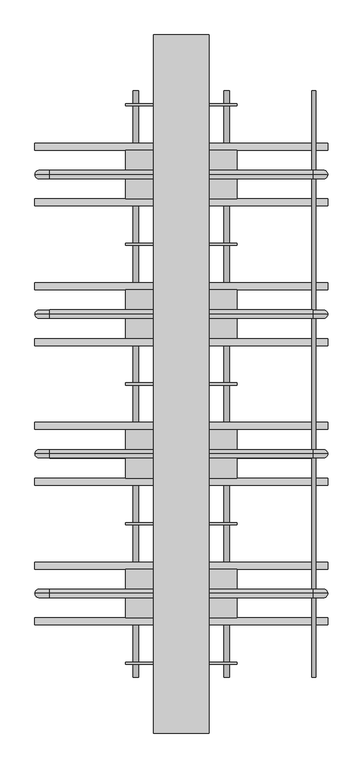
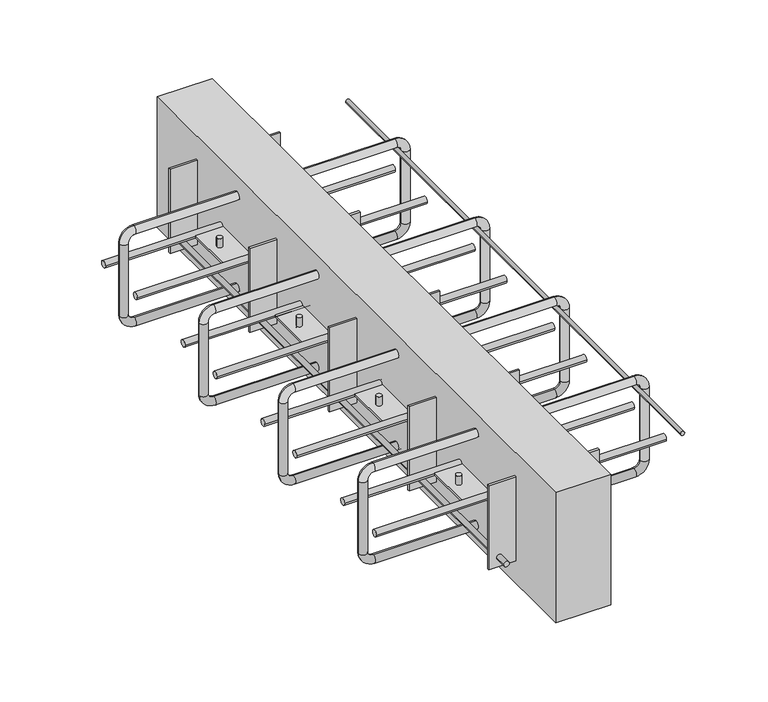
"""IFC4 building model written with IfcOpenShell, lengths in millimetres: fastener geometry, ACINOXplus_Typenreihe_Ux-Ox : OD+ S4."""

from ifc_helpers import new_model, si_unit, point, frame, frame_2d, origin, place, context, project, spatial, polyline, circle_curve, ellipse_curve, trimmed, segment, composite_curve, outline, extrude, source, transform, mapped, element, save
from ifc_brep_helpers import cylinder_surface, revolved_surface, advanced_brep


def fastener_522c53e0(model_context):
    return source(origin(), model_context, "Body", "SolidModel", [
        advanced_brep(
        [(189.0, 100.0, -35.5), (189.0, 100.0, -23.5), (-189.0, 100.0, -23.5), (-189.0, 100.0, -35.5), (-198.0, 100.0, -44.5), (-210.0, 100.0, -44.5), (-210.0, 100.0, -155.5), (-198.0, 100.0, -155.5), (-189.0, 100.0, -164.5), (-189.0, 100.0, -176.5), (189.0, 100.0, -176.5), (189.0, 100.0, -164.5), (198.0, 100.0, -155.5), (210.0, 100.0, -155.5), (210.0, 100.0, -44.5), (198.0, 100.0, -44.5)],
        [
            (0, 1, circle_curve(frame((189.0, 100.0, -29.5), z_axis=(-1.0, 0.0, 0.0), x_axis=(0.0, 0.0, -1.0)), 6.0)),
            (1, 2),
            (2, 3, circle_curve(frame((-189.0, 100.0, -29.5), z_axis=(1.0, 0.0, 0.0), x_axis=(0.0, 0.0, -1.0)), 6.0)),
            (3, 0),
            (1, 0, circle_curve(frame((189.0, 100.0, -29.5), z_axis=(-1.0, 0.0, 0.0), x_axis=(0.0, 0.0, -1.0)), 6.0)),
            (3, 2, circle_curve(frame((-189.0, 100.0, -29.5), z_axis=(1.0, 0.0, 0.0), x_axis=(0.0, 0.0, -1.0)), 6.0)),
            (4, 3, circle_curve(frame((-189.0, 100.0, -44.5), z_axis=(0.0, 1.0, 0.0), x_axis=(0.0, 0.0, 1.0)), 9.0)),
            (2, 5, circle_curve(frame((-189.0, 100.0, -44.5), z_axis=(0.0, -1.0, 0.0), x_axis=(0.0, 0.0, 1.0)), 21.0)),
            (5, 4, circle_curve(frame((-204.0, 100.0, -44.5), z_axis=(0.0, 0.0, 1.0), x_axis=(1.0, 0.0, 0.0)), 6.0)),
            (4, 5, circle_curve(frame((-204.0, 100.0, -44.5), z_axis=(0.0, 0.0, 1.0), x_axis=(1.0, 0.0, 0.0)), 6.0)),
            (5, 6),
            (6, 7, circle_curve(frame((-204.0, 100.0, -155.5), z_axis=(0.0, 0.0, 1.0), x_axis=(1.0, 0.0, 0.0)), 6.0)),
            (7, 4),
            (7, 6, circle_curve(frame((-204.0, 100.0, -155.5), z_axis=(0.0, 0.0, 1.0), x_axis=(1.0, 0.0, 0.0)), 6.0)),
            (8, 7, circle_curve(frame((-189.0, 100.0, -155.5), z_axis=(0.0, 1.0, 0.0), x_axis=(-1.0, 0.0, 0.0)), 9.0)),
            (6, 9, circle_curve(frame((-189.0, 100.0, -155.5), z_axis=(0.0, -1.0, 0.0), x_axis=(-1.0, 0.0, 0.0)), 21.0)),
            (9, 8, circle_curve(frame((-189.0, 100.0, -170.5), z_axis=(-1.0, 0.0, 0.0), x_axis=(0.0, 0.0, 1.0)), 6.0)),
            (8, 9, circle_curve(frame((-189.0, 100.0, -170.5), z_axis=(-1.0, 0.0, 0.0), x_axis=(0.0, 0.0, 1.0)), 6.0)),
            (9, 10),
            (10, 11, circle_curve(frame((189.0, 100.0, -170.5), z_axis=(-1.0, 0.0, 0.0), x_axis=(0.0, 0.0, 1.0)), 6.0)),
            (11, 8),
            (11, 10, circle_curve(frame((189.0, 100.0, -170.5), z_axis=(-1.0, 0.0, 0.0), x_axis=(0.0, 0.0, 1.0)), 6.0)),
            (12, 11, circle_curve(frame((189.0, 100.0, -155.5), z_axis=(0.0, 1.0, 0.0), x_axis=(0.0, 0.0, -1.0)), 9.0)),
            (10, 13, circle_curve(frame((189.0, 100.0, -155.5), z_axis=(0.0, -1.0, 0.0), x_axis=(0.0, 0.0, -1.0)), 21.0)),
            (13, 12, circle_curve(frame((204.0, 100.0, -155.5), z_axis=(0.0, 0.0, -1.0), x_axis=(-1.0, 0.0, 0.0)), 6.0)),
            (12, 13, circle_curve(frame((204.0, 100.0, -155.5), z_axis=(0.0, 0.0, -1.0), x_axis=(-1.0, 0.0, 0.0)), 6.0)),
            (13, 14),
            (14, 15, circle_curve(frame((204.0, 100.0, -44.5), z_axis=(0.0, 0.0, -1.0), x_axis=(-1.0, 0.0, 0.0)), 6.0)),
            (15, 12),
            (15, 14, circle_curve(frame((204.0, 100.0, -44.5), z_axis=(0.0, 0.0, -1.0), x_axis=(-1.0, 0.0, 0.0)), 6.0)),
            (0, 15, circle_curve(frame((189.0, 100.0, -44.5), z_axis=(0.0, 1.0, 0.0), x_axis=(1.0, 0.0, 0.0)), 9.0)),
            (14, 1, circle_curve(frame((189.0, 100.0, -44.5), z_axis=(0.0, -1.0, 0.0), x_axis=(1.0, 0.0, 0.0)), 21.0)),
        ],
        [
            cylinder_surface(frame((189.0, 100.0, -29.5), z_axis=(1.0, 0.0, 0.0), x_axis=(0.0, 0.0, -1.0)), 6.0),
            revolved_surface(trimmed(ellipse_curve(frame((-189.0, 100.0, -29.5), z_axis=(1.0, 0.0, 0.0), x_axis=(0.0, 0.0, -1.0)), 6.0, 6.0), [point((-189.0, 100.0, -23.5))], [point((-189.0, 100.0, -35.5))], True, "CARTESIAN"), (-189.0, 100.0, -44.5), (0.0, -1.0, 0.0)),
            revolved_surface(trimmed(ellipse_curve(frame((-189.0, 100.0, -29.5), z_axis=(1.0, 0.0, 0.0), x_axis=(0.0, 0.0, -1.0)), 6.0, 6.0), [point((-189.0, 100.0, -35.5))], [point((-189.0, 100.0, -23.5))], True, "CARTESIAN"), (-189.0, 100.0, -44.5), (0.0, -1.0, 0.0)),
            cylinder_surface(frame((-204.0, 100.0, -44.5), z_axis=(0.0, 0.0, 1.0), x_axis=(1.0, 0.0, 0.0)), 6.0),
            revolved_surface(trimmed(ellipse_curve(frame((-204.0, 100.0, -155.5), z_axis=(0.0, 0.0, 1.0), x_axis=(1.0, 0.0, 0.0)), 6.0, 6.0), [point((-210.0, 100.0, -155.5))], [point((-198.0, 100.0, -155.5))], True, "CARTESIAN"), (-189.0, 100.0, -155.5), (0.0, -1.0, 0.0)),
            revolved_surface(trimmed(ellipse_curve(frame((-204.0, 100.0, -155.5), z_axis=(0.0, 0.0, 1.0), x_axis=(1.0, 0.0, 0.0)), 6.0, 6.0), [point((-198.0, 100.0, -155.5))], [point((-210.0, 100.0, -155.5))], True, "CARTESIAN"), (-189.0, 100.0, -155.5), (0.0, -1.0, 0.0)),
            cylinder_surface(frame((-189.0, 100.0, -170.5), z_axis=(-1.0, 0.0, 0.0), x_axis=(0.0, 0.0, 1.0)), 6.0),
            revolved_surface(trimmed(ellipse_curve(frame((189.0, 100.0, -170.5), z_axis=(-1.0, 0.0, 0.0), x_axis=(0.0, 0.0, 1.0)), 6.0, 6.0), [point((189.0, 100.0, -176.5))], [point((189.0, 100.0, -164.5))], True, "CARTESIAN"), (189.0, 100.0, -155.5), (0.0, -1.0, 0.0)),
            revolved_surface(trimmed(ellipse_curve(frame((189.0, 100.0, -170.5), z_axis=(-1.0, 0.0, 0.0), x_axis=(0.0, 0.0, 1.0)), 6.0, 6.0), [point((189.0, 100.0, -164.5))], [point((189.0, 100.0, -176.5))], True, "CARTESIAN"), (189.0, 100.0, -155.5), (0.0, -1.0, 0.0)),
            cylinder_surface(frame((204.0, 100.0, -155.5), z_axis=(0.0, 0.0, -1.0), x_axis=(-1.0, 0.0, 0.0)), 6.0),
            revolved_surface(trimmed(ellipse_curve(frame((204.0, 100.0, -44.5), z_axis=(0.0, 0.0, -1.0), x_axis=(-1.0, 0.0, 0.0)), 6.0, 6.0), [point((210.0, 100.0, -44.5))], [point((198.0, 100.0, -44.5))], True, "CARTESIAN"), (189.0, 100.0, -44.5), (0.0, -1.0, 0.0)),
            revolved_surface(trimmed(ellipse_curve(frame((204.0, 100.0, -44.5), z_axis=(0.0, 0.0, -1.0), x_axis=(-1.0, 0.0, 0.0)), 6.0, 6.0), [point((198.0, 100.0, -44.5))], [point((210.0, 100.0, -44.5))], True, "CARTESIAN"), (189.0, 100.0, -44.5), (0.0, -1.0, 0.0)),
        ],
        [
            (0, [[1, 2, 3, 4]]),
            (0, [[5, -4, 6, -2]]),
            (1, [[7, -3, 8, 9]]),
            (2, [[-8, -6, -7, 10]]),
            (3, [[-9, 11, 12, 13]]),
            (3, [[-10, -13, 14, -11]]),
            (4, [[15, -12, 16, 17]]),
            (5, [[-16, -14, -15, 18]]),
            (6, [[-17, 19, 20, 21]]),
            (6, [[-18, -21, 22, -19]]),
            (7, [[23, -20, 24, 25]]),
            (8, [[-24, -22, -23, 26]]),
            (9, [[-25, 27, 28, 29]]),
            (9, [[-26, -29, 30, -27]]),
            (10, [[31, -28, 32, -1]]),
            (11, [[-32, -30, -31, -5]]),
        ],
    ),
        advanced_brep(
        [(189.0, -100.0, -35.5), (189.0, -100.0, -23.5), (-189.0, -100.0, -23.5), (-189.0, -100.0, -35.5), (-198.0, -100.0, -44.5), (-210.0, -100.0, -44.5), (-210.0, -100.0, -155.5), (-198.0, -100.0, -155.5), (-189.0, -100.0, -164.5), (-189.0, -100.0, -176.5), (189.0, -100.0, -176.5), (189.0, -100.0, -164.5), (198.0, -100.0, -155.5), (210.0, -100.0, -155.5), (210.0, -100.0, -44.5), (198.0, -100.0, -44.5)],
        [
            (0, 1, circle_curve(frame((189.0, -100.0, -29.5), z_axis=(-1.0, 0.0, 0.0), x_axis=(0.0, 0.0, -1.0)), 6.0)),
            (1, 2),
            (2, 3, circle_curve(frame((-189.0, -100.0, -29.5), z_axis=(1.0, 0.0, 0.0), x_axis=(0.0, 0.0, -1.0)), 6.0)),
            (3, 0),
            (1, 0, circle_curve(frame((189.0, -100.0, -29.5), z_axis=(-1.0, 0.0, 0.0), x_axis=(0.0, 0.0, -1.0)), 6.0)),
            (3, 2, circle_curve(frame((-189.0, -100.0, -29.5), z_axis=(1.0, 0.0, 0.0), x_axis=(0.0, 0.0, -1.0)), 6.0)),
            (4, 3, circle_curve(frame((-189.0, -100.0, -44.5), z_axis=(0.0, 1.0, 0.0), x_axis=(0.0, 0.0, 1.0)), 9.0)),
            (2, 5, circle_curve(frame((-189.0, -100.0, -44.5), z_axis=(0.0, -1.0, 0.0), x_axis=(0.0, 0.0, 1.0)), 21.0)),
            (5, 4, circle_curve(frame((-204.0, -100.0, -44.5), z_axis=(0.0, 0.0, 1.0), x_axis=(1.0, 0.0, 0.0)), 6.0)),
            (4, 5, circle_curve(frame((-204.0, -100.0, -44.5), z_axis=(0.0, 0.0, 1.0), x_axis=(1.0, 0.0, 0.0)), 6.0)),
            (5, 6),
            (6, 7, circle_curve(frame((-204.0, -100.0, -155.5), z_axis=(0.0, 0.0, 1.0), x_axis=(1.0, 0.0, 0.0)), 6.0)),
            (7, 4),
            (7, 6, circle_curve(frame((-204.0, -100.0, -155.5), z_axis=(0.0, 0.0, 1.0), x_axis=(1.0, 0.0, 0.0)), 6.0)),
            (8, 7, circle_curve(frame((-189.0, -100.0, -155.5), z_axis=(0.0, 1.0, 0.0), x_axis=(-1.0, 0.0, 0.0)), 9.0)),
            (6, 9, circle_curve(frame((-189.0, -100.0, -155.5), z_axis=(0.0, -1.0, 0.0), x_axis=(-1.0, 0.0, 0.0)), 21.0)),
            (9, 8, circle_curve(frame((-189.0, -100.0, -170.5), z_axis=(-1.0, 0.0, 0.0), x_axis=(0.0, 0.0, 1.0)), 6.0)),
            (8, 9, circle_curve(frame((-189.0, -100.0, -170.5), z_axis=(-1.0, 0.0, 0.0), x_axis=(0.0, 0.0, 1.0)), 6.0)),
            (9, 10),
            (10, 11, circle_curve(frame((189.0, -100.0, -170.5), z_axis=(-1.0, 0.0, 0.0), x_axis=(0.0, 0.0, 1.0)), 6.0)),
            (11, 8),
            (11, 10, circle_curve(frame((189.0, -100.0, -170.5), z_axis=(-1.0, 0.0, 0.0), x_axis=(0.0, 0.0, 1.0)), 6.0)),
            (12, 11, circle_curve(frame((189.0, -100.0, -155.5), z_axis=(0.0, 1.0, 0.0), x_axis=(0.0, 0.0, -1.0)), 9.0)),
            (10, 13, circle_curve(frame((189.0, -100.0, -155.5), z_axis=(0.0, -1.0, 0.0), x_axis=(0.0, 0.0, -1.0)), 21.0)),
            (13, 12, circle_curve(frame((204.0, -100.0, -155.5), z_axis=(0.0, 0.0, -1.0), x_axis=(-1.0, 0.0, 0.0)), 6.0)),
            (12, 13, circle_curve(frame((204.0, -100.0, -155.5), z_axis=(0.0, 0.0, -1.0), x_axis=(-1.0, 0.0, 0.0)), 6.0)),
            (13, 14),
            (14, 15, circle_curve(frame((204.0, -100.0, -44.5), z_axis=(0.0, 0.0, -1.0), x_axis=(-1.0, 0.0, 0.0)), 6.0)),
            (15, 12),
            (15, 14, circle_curve(frame((204.0, -100.0, -44.5), z_axis=(0.0, 0.0, -1.0), x_axis=(-1.0, 0.0, 0.0)), 6.0)),
            (0, 15, circle_curve(frame((189.0, -100.0, -44.5), z_axis=(0.0, 1.0, 0.0), x_axis=(1.0, 0.0, 0.0)), 9.0)),
            (14, 1, circle_curve(frame((189.0, -100.0, -44.5), z_axis=(0.0, -1.0, 0.0), x_axis=(1.0, 0.0, 0.0)), 21.0)),
        ],
        [
            cylinder_surface(frame((189.0, -100.0, -29.5), z_axis=(1.0, 0.0, 0.0), x_axis=(0.0, 0.0, -1.0)), 6.0),
            revolved_surface(trimmed(ellipse_curve(frame((-189.0, -100.0, -29.5), z_axis=(1.0, 0.0, 0.0), x_axis=(0.0, 0.0, -1.0)), 6.0, 6.0), [point((-189.0, -100.0, -23.5))], [point((-189.0, -100.0, -35.5))], True, "CARTESIAN"), (-189.0, -100.0, -44.5), (0.0, -1.0, 0.0)),
            revolved_surface(trimmed(ellipse_curve(frame((-189.0, -100.0, -29.5), z_axis=(1.0, 0.0, 0.0), x_axis=(0.0, 0.0, -1.0)), 6.0, 6.0), [point((-189.0, -100.0, -35.5))], [point((-189.0, -100.0, -23.5))], True, "CARTESIAN"), (-189.0, -100.0, -44.5), (0.0, -1.0, 0.0)),
            cylinder_surface(frame((-204.0, -100.0, -44.5), z_axis=(0.0, 0.0, 1.0), x_axis=(1.0, 0.0, 0.0)), 6.0),
            revolved_surface(trimmed(ellipse_curve(frame((-204.0, -100.0, -155.5), z_axis=(0.0, 0.0, 1.0), x_axis=(1.0, 0.0, 0.0)), 6.0, 6.0), [point((-210.0, -100.0, -155.5))], [point((-198.0, -100.0, -155.5))], True, "CARTESIAN"), (-189.0, -100.0, -155.5), (0.0, -1.0, 0.0)),
            revolved_surface(trimmed(ellipse_curve(frame((-204.0, -100.0, -155.5), z_axis=(0.0, 0.0, 1.0), x_axis=(1.0, 0.0, 0.0)), 6.0, 6.0), [point((-198.0, -100.0, -155.5))], [point((-210.0, -100.0, -155.5))], True, "CARTESIAN"), (-189.0, -100.0, -155.5), (0.0, -1.0, 0.0)),
            cylinder_surface(frame((-189.0, -100.0, -170.5), z_axis=(-1.0, 0.0, 0.0), x_axis=(0.0, 0.0, 1.0)), 6.0),
            revolved_surface(trimmed(ellipse_curve(frame((189.0, -100.0, -170.5), z_axis=(-1.0, 0.0, 0.0), x_axis=(0.0, 0.0, 1.0)), 6.0, 6.0), [point((189.0, -100.0, -176.5))], [point((189.0, -100.0, -164.5))], True, "CARTESIAN"), (189.0, -100.0, -155.5), (0.0, -1.0, 0.0)),
            revolved_surface(trimmed(ellipse_curve(frame((189.0, -100.0, -170.5), z_axis=(-1.0, 0.0, 0.0), x_axis=(0.0, 0.0, 1.0)), 6.0, 6.0), [point((189.0, -100.0, -164.5))], [point((189.0, -100.0, -176.5))], True, "CARTESIAN"), (189.0, -100.0, -155.5), (0.0, -1.0, 0.0)),
            cylinder_surface(frame((204.0, -100.0, -155.5), z_axis=(0.0, 0.0, -1.0), x_axis=(-1.0, 0.0, 0.0)), 6.0),
            revolved_surface(trimmed(ellipse_curve(frame((204.0, -100.0, -44.5), z_axis=(0.0, 0.0, -1.0), x_axis=(-1.0, 0.0, 0.0)), 6.0, 6.0), [point((210.0, -100.0, -44.5))], [point((198.0, -100.0, -44.5))], True, "CARTESIAN"), (189.0, -100.0, -44.5), (0.0, -1.0, 0.0)),
            revolved_surface(trimmed(ellipse_curve(frame((204.0, -100.0, -44.5), z_axis=(0.0, 0.0, -1.0), x_axis=(-1.0, 0.0, 0.0)), 6.0, 6.0), [point((198.0, -100.0, -44.5))], [point((210.0, -100.0, -44.5))], True, "CARTESIAN"), (189.0, -100.0, -44.5), (0.0, -1.0, 0.0)),
        ],
        [
            (0, [[1, 2, 3, 4]]),
            (0, [[5, -4, 6, -2]]),
            (1, [[7, -3, 8, 9]]),
            (2, [[-8, -6, -7, 10]]),
            (3, [[-9, 11, 12, 13]]),
            (3, [[-10, -13, 14, -11]]),
            (4, [[15, -12, 16, 17]]),
            (5, [[-16, -14, -15, 18]]),
            (6, [[-17, 19, 20, 21]]),
            (6, [[-18, -21, 22, -19]]),
            (7, [[23, -20, 24, 25]]),
            (8, [[-24, -22, -23, 26]]),
            (9, [[-25, 27, 28, 29]]),
            (9, [[-26, -29, 30, -27]]),
            (10, [[31, -28, 32, -1]]),
            (11, [[-32, -30, -31, -5]]),
        ],
    ),
        advanced_brep(
        [(189.0, 300.0, -35.5), (189.0, 300.0, -23.5), (-189.0, 300.0, -23.5), (-189.0, 300.0, -35.5), (-198.0, 300.0, -44.5), (-210.0, 300.0, -44.5), (-210.0, 300.0, -155.5), (-198.0, 300.0, -155.5), (-189.0, 300.0, -164.5), (-189.0, 300.0, -176.5), (189.0, 300.0, -176.5), (189.0, 300.0, -164.5), (198.0, 300.0, -155.5), (210.0, 300.0, -155.5), (210.0, 300.0, -44.5), (198.0, 300.0, -44.5)],
        [
            (0, 1, circle_curve(frame((189.0, 300.0, -29.5), z_axis=(-1.0, 0.0, 0.0), x_axis=(0.0, 0.0, -1.0)), 6.0)),
            (1, 2),
            (2, 3, circle_curve(frame((-189.0, 300.0, -29.5), z_axis=(1.0, 0.0, 0.0), x_axis=(0.0, 0.0, -1.0)), 6.0)),
            (3, 0),
            (1, 0, circle_curve(frame((189.0, 300.0, -29.5), z_axis=(-1.0, 0.0, 0.0), x_axis=(0.0, 0.0, -1.0)), 6.0)),
            (3, 2, circle_curve(frame((-189.0, 300.0, -29.5), z_axis=(1.0, 0.0, 0.0), x_axis=(0.0, 0.0, -1.0)), 6.0)),
            (4, 3, circle_curve(frame((-189.0, 300.0, -44.5), z_axis=(0.0, 1.0, 0.0), x_axis=(0.0, 0.0, 1.0)), 9.0)),
            (2, 5, circle_curve(frame((-189.0, 300.0, -44.5), z_axis=(0.0, -1.0, 0.0), x_axis=(0.0, 0.0, 1.0)), 21.0)),
            (5, 4, circle_curve(frame((-204.0, 300.0, -44.5), z_axis=(0.0, 0.0, 1.0), x_axis=(1.0, 0.0, 0.0)), 6.0)),
            (4, 5, circle_curve(frame((-204.0, 300.0, -44.5), z_axis=(0.0, 0.0, 1.0), x_axis=(1.0, 0.0, 0.0)), 6.0)),
            (5, 6),
            (6, 7, circle_curve(frame((-204.0, 300.0, -155.5), z_axis=(0.0, 0.0, 1.0), x_axis=(1.0, 0.0, 0.0)), 6.0)),
            (7, 4),
            (7, 6, circle_curve(frame((-204.0, 300.0, -155.5), z_axis=(0.0, 0.0, 1.0), x_axis=(1.0, 0.0, 0.0)), 6.0)),
            (8, 7, circle_curve(frame((-189.0, 300.0, -155.5), z_axis=(0.0, 1.0, 0.0), x_axis=(-1.0, 0.0, 0.0)), 9.0)),
            (6, 9, circle_curve(frame((-189.0, 300.0, -155.5), z_axis=(0.0, -1.0, 0.0), x_axis=(-1.0, 0.0, 0.0)), 21.0)),
            (9, 8, circle_curve(frame((-189.0, 300.0, -170.5), z_axis=(-1.0, 0.0, 0.0), x_axis=(0.0, 0.0, 1.0)), 6.0)),
            (8, 9, circle_curve(frame((-189.0, 300.0, -170.5), z_axis=(-1.0, 0.0, 0.0), x_axis=(0.0, 0.0, 1.0)), 6.0)),
            (9, 10),
            (10, 11, circle_curve(frame((189.0, 300.0, -170.5), z_axis=(-1.0, 0.0, 0.0), x_axis=(0.0, 0.0, 1.0)), 6.0)),
            (11, 8),
            (11, 10, circle_curve(frame((189.0, 300.0, -170.5), z_axis=(-1.0, 0.0, 0.0), x_axis=(0.0, 0.0, 1.0)), 6.0)),
            (12, 11, circle_curve(frame((189.0, 300.0, -155.5), z_axis=(0.0, 1.0, 0.0), x_axis=(0.0, 0.0, -1.0)), 9.0)),
            (10, 13, circle_curve(frame((189.0, 300.0, -155.5), z_axis=(0.0, -1.0, 0.0), x_axis=(0.0, 0.0, -1.0)), 21.0)),
            (13, 12, circle_curve(frame((204.0, 300.0, -155.5), z_axis=(0.0, 0.0, -1.0), x_axis=(-1.0, 0.0, 0.0)), 6.0)),
            (12, 13, circle_curve(frame((204.0, 300.0, -155.5), z_axis=(0.0, 0.0, -1.0), x_axis=(-1.0, 0.0, 0.0)), 6.0)),
            (13, 14),
            (14, 15, circle_curve(frame((204.0, 300.0, -44.5), z_axis=(0.0, 0.0, -1.0), x_axis=(-1.0, 0.0, 0.0)), 6.0)),
            (15, 12),
            (15, 14, circle_curve(frame((204.0, 300.0, -44.5), z_axis=(0.0, 0.0, -1.0), x_axis=(-1.0, 0.0, 0.0)), 6.0)),
            (0, 15, circle_curve(frame((189.0, 300.0, -44.5), z_axis=(0.0, 1.0, 0.0), x_axis=(1.0, 0.0, 0.0)), 9.0)),
            (14, 1, circle_curve(frame((189.0, 300.0, -44.5), z_axis=(0.0, -1.0, 0.0), x_axis=(1.0, 0.0, 0.0)), 21.0)),
        ],
        [
            cylinder_surface(frame((189.0, 300.0, -29.5), z_axis=(1.0, 0.0, 0.0), x_axis=(0.0, 0.0, -1.0)), 6.0),
            revolved_surface(trimmed(ellipse_curve(frame((-189.0, 300.0, -29.5), z_axis=(1.0, 0.0, 0.0), x_axis=(0.0, 0.0, -1.0)), 6.0, 6.0), [point((-189.0, 300.0, -23.5))], [point((-189.0, 300.0, -35.5))], True, "CARTESIAN"), (-189.0, 300.0, -44.5), (0.0, -1.0, 0.0)),
            revolved_surface(trimmed(ellipse_curve(frame((-189.0, 300.0, -29.5), z_axis=(1.0, 0.0, 0.0), x_axis=(0.0, 0.0, -1.0)), 6.0, 6.0), [point((-189.0, 300.0, -35.5))], [point((-189.0, 300.0, -23.5))], True, "CARTESIAN"), (-189.0, 300.0, -44.5), (0.0, -1.0, 0.0)),
            cylinder_surface(frame((-204.0, 300.0, -44.5), z_axis=(0.0, 0.0, 1.0), x_axis=(1.0, 0.0, 0.0)), 6.0),
            revolved_surface(trimmed(ellipse_curve(frame((-204.0, 300.0, -155.5), z_axis=(0.0, 0.0, 1.0), x_axis=(1.0, 0.0, 0.0)), 6.0, 6.0), [point((-210.0, 300.0, -155.5))], [point((-198.0, 300.0, -155.5))], True, "CARTESIAN"), (-189.0, 300.0, -155.5), (0.0, -1.0, 0.0)),
            revolved_surface(trimmed(ellipse_curve(frame((-204.0, 300.0, -155.5), z_axis=(0.0, 0.0, 1.0), x_axis=(1.0, 0.0, 0.0)), 6.0, 6.0), [point((-198.0, 300.0, -155.5))], [point((-210.0, 300.0, -155.5))], True, "CARTESIAN"), (-189.0, 300.0, -155.5), (0.0, -1.0, 0.0)),
            cylinder_surface(frame((-189.0, 300.0, -170.5), z_axis=(-1.0, 0.0, 0.0), x_axis=(0.0, 0.0, 1.0)), 6.0),
            revolved_surface(trimmed(ellipse_curve(frame((189.0, 300.0, -170.5), z_axis=(-1.0, 0.0, 0.0), x_axis=(0.0, 0.0, 1.0)), 6.0, 6.0), [point((189.0, 300.0, -176.5))], [point((189.0, 300.0, -164.5))], True, "CARTESIAN"), (189.0, 300.0, -155.5), (0.0, -1.0, 0.0)),
            revolved_surface(trimmed(ellipse_curve(frame((189.0, 300.0, -170.5), z_axis=(-1.0, 0.0, 0.0), x_axis=(0.0, 0.0, 1.0)), 6.0, 6.0), [point((189.0, 300.0, -164.5))], [point((189.0, 300.0, -176.5))], True, "CARTESIAN"), (189.0, 300.0, -155.5), (0.0, -1.0, 0.0)),
            cylinder_surface(frame((204.0, 300.0, -155.5), z_axis=(0.0, 0.0, -1.0), x_axis=(-1.0, 0.0, 0.0)), 6.0),
            revolved_surface(trimmed(ellipse_curve(frame((204.0, 300.0, -44.5), z_axis=(0.0, 0.0, -1.0), x_axis=(-1.0, 0.0, 0.0)), 6.0, 6.0), [point((210.0, 300.0, -44.5))], [point((198.0, 300.0, -44.5))], True, "CARTESIAN"), (189.0, 300.0, -44.5), (0.0, -1.0, 0.0)),
            revolved_surface(trimmed(ellipse_curve(frame((204.0, 300.0, -44.5), z_axis=(0.0, 0.0, -1.0), x_axis=(-1.0, 0.0, 0.0)), 6.0, 6.0), [point((198.0, 300.0, -44.5))], [point((210.0, 300.0, -44.5))], True, "CARTESIAN"), (189.0, 300.0, -44.5), (0.0, -1.0, 0.0)),
        ],
        [
            (0, [[1, 2, 3, 4]]),
            (0, [[5, -4, 6, -2]]),
            (1, [[7, -3, 8, 9]]),
            (2, [[-8, -6, -7, 10]]),
            (3, [[-9, 11, 12, 13]]),
            (3, [[-10, -13, 14, -11]]),
            (4, [[15, -12, 16, 17]]),
            (5, [[-16, -14, -15, 18]]),
            (6, [[-17, 19, 20, 21]]),
            (6, [[-18, -21, 22, -19]]),
            (7, [[23, -20, 24, 25]]),
            (8, [[-24, -22, -23, 26]]),
            (9, [[-25, 27, 28, 29]]),
            (9, [[-26, -29, 30, -27]]),
            (10, [[31, -28, 32, -1]]),
            (11, [[-32, -30, -31, -5]]),
        ],
    ),
        advanced_brep(
        [(189.0, -300.0, -35.5), (189.0, -300.0, -23.5), (-189.0, -300.0, -23.5), (-189.0, -300.0, -35.5), (-198.0, -300.0, -44.5), (-210.0, -300.0, -44.5), (-210.0, -300.0, -155.5), (-198.0, -300.0, -155.5), (-189.0, -300.0, -164.5), (-189.0, -300.0, -176.5), (189.0, -300.0, -176.5), (189.0, -300.0, -164.5), (198.0, -300.0, -155.5), (210.0, -300.0, -155.5), (210.0, -300.0, -44.5), (198.0, -300.0, -44.5)],
        [
            (0, 1, circle_curve(frame((189.0, -300.0, -29.5), z_axis=(-1.0, 0.0, 0.0), x_axis=(0.0, 0.0, -1.0)), 6.0)),
            (1, 2),
            (2, 3, circle_curve(frame((-189.0, -300.0, -29.5), z_axis=(1.0, 0.0, 0.0), x_axis=(0.0, 0.0, -1.0)), 6.0)),
            (3, 0),
            (1, 0, circle_curve(frame((189.0, -300.0, -29.5), z_axis=(-1.0, 0.0, 0.0), x_axis=(0.0, 0.0, -1.0)), 6.0)),
            (3, 2, circle_curve(frame((-189.0, -300.0, -29.5), z_axis=(1.0, 0.0, 0.0), x_axis=(0.0, 0.0, -1.0)), 6.0)),
            (4, 3, circle_curve(frame((-189.0, -300.0, -44.5), z_axis=(0.0, 1.0, 0.0), x_axis=(0.0, 0.0, 1.0)), 9.0)),
            (2, 5, circle_curve(frame((-189.0, -300.0, -44.5), z_axis=(0.0, -1.0, 0.0), x_axis=(0.0, 0.0, 1.0)), 21.0)),
            (5, 4, circle_curve(frame((-204.0, -300.0, -44.5), z_axis=(0.0, 0.0, 1.0), x_axis=(1.0, 0.0, 0.0)), 6.0)),
            (4, 5, circle_curve(frame((-204.0, -300.0, -44.5), z_axis=(0.0, 0.0, 1.0), x_axis=(1.0, 0.0, 0.0)), 6.0)),
            (5, 6),
            (6, 7, circle_curve(frame((-204.0, -300.0, -155.5), z_axis=(0.0, 0.0, 1.0), x_axis=(1.0, 0.0, 0.0)), 6.0)),
            (7, 4),
            (7, 6, circle_curve(frame((-204.0, -300.0, -155.5), z_axis=(0.0, 0.0, 1.0), x_axis=(1.0, 0.0, 0.0)), 6.0)),
            (8, 7, circle_curve(frame((-189.0, -300.0, -155.5), z_axis=(0.0, 1.0, 0.0), x_axis=(-1.0, 0.0, 0.0)), 9.0)),
            (6, 9, circle_curve(frame((-189.0, -300.0, -155.5), z_axis=(0.0, -1.0, 0.0), x_axis=(-1.0, 0.0, 0.0)), 21.0)),
            (9, 8, circle_curve(frame((-189.0, -300.0, -170.5), z_axis=(-1.0, 0.0, 0.0), x_axis=(0.0, 0.0, 1.0)), 6.0)),
            (8, 9, circle_curve(frame((-189.0, -300.0, -170.5), z_axis=(-1.0, 0.0, 0.0), x_axis=(0.0, 0.0, 1.0)), 6.0)),
            (9, 10),
            (10, 11, circle_curve(frame((189.0, -300.0, -170.5), z_axis=(-1.0, 0.0, 0.0), x_axis=(0.0, 0.0, 1.0)), 6.0)),
            (11, 8),
            (11, 10, circle_curve(frame((189.0, -300.0, -170.5), z_axis=(-1.0, 0.0, 0.0), x_axis=(0.0, 0.0, 1.0)), 6.0)),
            (12, 11, circle_curve(frame((189.0, -300.0, -155.5), z_axis=(0.0, 1.0, 0.0), x_axis=(0.0, 0.0, -1.0)), 9.0)),
            (10, 13, circle_curve(frame((189.0, -300.0, -155.5), z_axis=(0.0, -1.0, 0.0), x_axis=(0.0, 0.0, -1.0)), 21.0)),
            (13, 12, circle_curve(frame((204.0, -300.0, -155.5), z_axis=(0.0, 0.0, -1.0), x_axis=(-1.0, 0.0, 0.0)), 6.0)),
            (12, 13, circle_curve(frame((204.0, -300.0, -155.5), z_axis=(0.0, 0.0, -1.0), x_axis=(-1.0, 0.0, 0.0)), 6.0)),
            (13, 14),
            (14, 15, circle_curve(frame((204.0, -300.0, -44.5), z_axis=(0.0, 0.0, -1.0), x_axis=(-1.0, 0.0, 0.0)), 6.0)),
            (15, 12),
            (15, 14, circle_curve(frame((204.0, -300.0, -44.5), z_axis=(0.0, 0.0, -1.0), x_axis=(-1.0, 0.0, 0.0)), 6.0)),
            (0, 15, circle_curve(frame((189.0, -300.0, -44.5), z_axis=(0.0, 1.0, 0.0), x_axis=(1.0, 0.0, 0.0)), 9.0)),
            (14, 1, circle_curve(frame((189.0, -300.0, -44.5), z_axis=(0.0, -1.0, 0.0), x_axis=(1.0, 0.0, 0.0)), 21.0)),
        ],
        [
            cylinder_surface(frame((189.0, -300.0, -29.5), z_axis=(1.0, 0.0, 0.0), x_axis=(0.0, 0.0, -1.0)), 6.0),
            revolved_surface(trimmed(ellipse_curve(frame((-189.0, -300.0, -29.5), z_axis=(1.0, 0.0, 0.0), x_axis=(0.0, 0.0, -1.0)), 6.0, 6.0), [point((-189.0, -300.0, -23.5))], [point((-189.0, -300.0, -35.5))], True, "CARTESIAN"), (-189.0, -300.0, -44.5), (0.0, -1.0, 0.0)),
            revolved_surface(trimmed(ellipse_curve(frame((-189.0, -300.0, -29.5), z_axis=(1.0, 0.0, 0.0), x_axis=(0.0, 0.0, -1.0)), 6.0, 6.0), [point((-189.0, -300.0, -35.5))], [point((-189.0, -300.0, -23.5))], True, "CARTESIAN"), (-189.0, -300.0, -44.5), (0.0, -1.0, 0.0)),
            cylinder_surface(frame((-204.0, -300.0, -44.5), z_axis=(0.0, 0.0, 1.0), x_axis=(1.0, 0.0, 0.0)), 6.0),
            revolved_surface(trimmed(ellipse_curve(frame((-204.0, -300.0, -155.5), z_axis=(0.0, 0.0, 1.0), x_axis=(1.0, 0.0, 0.0)), 6.0, 6.0), [point((-210.0, -300.0, -155.5))], [point((-198.0, -300.0, -155.5))], True, "CARTESIAN"), (-189.0, -300.0, -155.5), (0.0, -1.0, 0.0)),
            revolved_surface(trimmed(ellipse_curve(frame((-204.0, -300.0, -155.5), z_axis=(0.0, 0.0, 1.0), x_axis=(1.0, 0.0, 0.0)), 6.0, 6.0), [point((-198.0, -300.0, -155.5))], [point((-210.0, -300.0, -155.5))], True, "CARTESIAN"), (-189.0, -300.0, -155.5), (0.0, -1.0, 0.0)),
            cylinder_surface(frame((-189.0, -300.0, -170.5), z_axis=(-1.0, 0.0, 0.0), x_axis=(0.0, 0.0, 1.0)), 6.0),
            revolved_surface(trimmed(ellipse_curve(frame((189.0, -300.0, -170.5), z_axis=(-1.0, 0.0, 0.0), x_axis=(0.0, 0.0, 1.0)), 6.0, 6.0), [point((189.0, -300.0, -176.5))], [point((189.0, -300.0, -164.5))], True, "CARTESIAN"), (189.0, -300.0, -155.5), (0.0, -1.0, 0.0)),
            revolved_surface(trimmed(ellipse_curve(frame((189.0, -300.0, -170.5), z_axis=(-1.0, 0.0, 0.0), x_axis=(0.0, 0.0, 1.0)), 6.0, 6.0), [point((189.0, -300.0, -164.5))], [point((189.0, -300.0, -176.5))], True, "CARTESIAN"), (189.0, -300.0, -155.5), (0.0, -1.0, 0.0)),
            cylinder_surface(frame((204.0, -300.0, -155.5), z_axis=(0.0, 0.0, -1.0), x_axis=(-1.0, 0.0, 0.0)), 6.0),
            revolved_surface(trimmed(ellipse_curve(frame((204.0, -300.0, -44.5), z_axis=(0.0, 0.0, -1.0), x_axis=(-1.0, 0.0, 0.0)), 6.0, 6.0), [point((210.0, -300.0, -44.5))], [point((198.0, -300.0, -44.5))], True, "CARTESIAN"), (189.0, -300.0, -44.5), (0.0, -1.0, 0.0)),
            revolved_surface(trimmed(ellipse_curve(frame((204.0, -300.0, -44.5), z_axis=(0.0, 0.0, -1.0), x_axis=(-1.0, 0.0, 0.0)), 6.0, 6.0), [point((198.0, -300.0, -44.5))], [point((210.0, -300.0, -44.5))], True, "CARTESIAN"), (189.0, -300.0, -44.5), (0.0, -1.0, 0.0)),
        ],
        [
            (0, [[1, 2, 3, 4]]),
            (0, [[5, -4, 6, -2]]),
            (1, [[7, -3, 8, 9]]),
            (2, [[-8, -6, -7, 10]]),
            (3, [[-9, 11, 12, 13]]),
            (3, [[-10, -13, 14, -11]]),
            (4, [[15, -12, 16, 17]]),
            (5, [[-16, -14, -15, 18]]),
            (6, [[-17, 19, 20, 21]]),
            (6, [[-18, -21, 22, -19]]),
            (7, [[23, -20, 24, 25]]),
            (8, [[-24, -22, -23, 26]]),
            (9, [[-25, 27, 28, 29]]),
            (9, [[-26, -29, 30, -27]]),
            (10, [[31, -28, 32, -1]]),
            (11, [[-32, -30, -31, -5]]),
        ],
    ),
        extrude(outline(composite_curve([segment(trimmed(circle_curve(frame_2d((-38.5, 190.0)), 3.0), [point((-38.5, 193.0))], [point((-38.5, 187.0))], False, "CARTESIAN"), True, "CONTINUOUS"), segment(trimmed(circle_curve(frame_2d((-38.5, 190.0)), 3.0), [point((-38.5, 187.0))], [point((-38.5, 193.0))], False, "CARTESIAN"), True, "CONTINUOUS")], self_intersect=False)), frame((0.0, -420.0, 0.0), z_axis=(0.0, 1.0, 0.0), x_axis=(0.0, 0.0, 1.0)), (0.0, 0.0, 1.0), 840.0),
        extrude(outline(composite_curve([segment(trimmed(circle_curve(frame_2d((-340.0, -100.0)), 5.0), [point((-345.0, -100.0))], [point((-335.0, -100.0))], False, "CARTESIAN"), True, "CONTINUOUS"), segment(trimmed(circle_curve(frame_2d((-340.0, -100.0)), 5.0), [point((-335.0, -100.0))], [point((-345.0, -100.0))], False, "CARTESIAN"), True, "CONTINUOUS")], self_intersect=False)), frame((-210.0, 0.0, 0.0), z_axis=(1.0, 0.0, 0.0), x_axis=(0.0, 1.0, 0.0)), (0.0, 0.0, 1.0), 420.0),
        extrude(outline(composite_curve([segment(trimmed(circle_curve(frame_2d((-260.0, -100.0)), 5.0), [point((-265.0, -100.0))], [point((-255.0, -100.0))], False, "CARTESIAN"), True, "CONTINUOUS"), segment(trimmed(circle_curve(frame_2d((-260.0, -100.0)), 5.0), [point((-255.0, -100.0))], [point((-265.0, -100.0))], False, "CARTESIAN"), True, "CONTINUOUS")], self_intersect=False)), frame((-210.0, 0.0, 0.0), z_axis=(1.0, 0.0, 0.0), x_axis=(0.0, 1.0, 0.0)), (0.0, 0.0, 1.0), 420.0),
        extrude(outline(composite_curve([segment(trimmed(circle_curve(frame_2d((-65.0, -300.0)), 4.0), [point((-69.0, -300.0))], [point((-61.0, -300.0))], False, "CARTESIAN"), True, "CONTINUOUS"), segment(trimmed(circle_curve(frame_2d((-65.0, -300.0)), 4.0), [point((-61.0, -300.0))], [point((-69.0, -300.0))], False, "CARTESIAN"), True, "CONTINUOUS")], self_intersect=False)), frame((0.0, 0.0, -115.0), z_axis=(0.0, 0.0, 1.0), x_axis=(1.0, 0.0, 0.0)), (0.0, 0.0, 1.0), 13.5),
        extrude(outline(composite_curve([segment(trimmed(circle_curve(frame_2d((65.0, -300.0)), 4.0), [point((61.0, -300.0))], [point((69.0, -300.0))], False, "CARTESIAN"), True, "CONTINUOUS"), segment(trimmed(circle_curve(frame_2d((65.0, -300.0)), 4.0), [point((69.0, -300.0))], [point((61.0, -300.0))], False, "CARTESIAN"), True, "CONTINUOUS")], self_intersect=False)), frame((0.0, 0.0, -115.0), z_axis=(0.0, 0.0, 1.0), x_axis=(1.0, 0.0, 0.0)), (0.0, 0.0, 1.0), 13.5),
        extrude(outline(composite_curve([segment(trimmed(circle_curve(frame_2d((-65.0, -300.0)), 4.0), [point((-61.0, -300.0))], [point((-69.0, -300.0))], False, "CARTESIAN"), True, "CONTINUOUS"), segment(trimmed(circle_curve(frame_2d((-65.0, -300.0)), 4.0), [point((-69.0, -300.0))], [point((-61.0, -300.0))], False, "CARTESIAN"), True, "CONTINUOUS")], self_intersect=False)), frame((0.0, 0.0, -98.5), z_axis=(0.0, 0.0, 1.0), x_axis=(1.0, 0.0, 0.0)), (0.0, 0.0, 1.0), 13.5),
        extrude(outline(composite_curve([segment(trimmed(circle_curve(frame_2d((65.0, -300.0)), 4.0), [point((69.0, -300.0))], [point((61.0, -300.0))], False, "CARTESIAN"), True, "CONTINUOUS"), segment(trimmed(circle_curve(frame_2d((65.0, -300.0)), 4.0), [point((61.0, -300.0))], [point((69.0, -300.0))], False, "CARTESIAN"), True, "CONTINUOUS")], self_intersect=False)), frame((0.0, 0.0, -98.5), z_axis=(0.0, 0.0, 1.0), x_axis=(1.0, 0.0, 0.0)), (0.0, 0.0, 1.0), 13.5),
        extrude(outline(polyline([(80.0, -265.0), (80.0, -335.0), (-80.0, -335.0), (-80.0, -265.0), (80.0, -265.0)])), frame((0.0, 0.0, -101.5), z_axis=(0.0, 0.0, 1.0), x_axis=(1.0, 0.0, 0.0)), (0.0, 0.0, 1.0), 3.0),
        extrude(outline(composite_curve([segment(trimmed(circle_curve(frame_2d((260.0, -100.0)), 5.0), [point((255.0, -100.0))], [point((265.0, -100.0))], False, "CARTESIAN"), True, "CONTINUOUS"), segment(trimmed(circle_curve(frame_2d((260.0, -100.0)), 5.0), [point((265.0, -100.0))], [point((255.0, -100.0))], False, "CARTESIAN"), True, "CONTINUOUS")], self_intersect=False)), frame((-210.0, 0.0, 0.0), z_axis=(1.0, 0.0, 0.0), x_axis=(0.0, 1.0, 0.0)), (0.0, 0.0, 1.0), 420.0),
        extrude(outline(composite_curve([segment(trimmed(circle_curve(frame_2d((340.0, -100.0)), 5.0), [point((335.0, -100.0))], [point((345.0, -100.0))], False, "CARTESIAN"), True, "CONTINUOUS"), segment(trimmed(circle_curve(frame_2d((340.0, -100.0)), 5.0), [point((345.0, -100.0))], [point((335.0, -100.0))], False, "CARTESIAN"), True, "CONTINUOUS")], self_intersect=False)), frame((-210.0, 0.0, 0.0), z_axis=(1.0, 0.0, 0.0), x_axis=(0.0, 1.0, 0.0)), (0.0, 0.0, 1.0), 420.0),
        extrude(outline(composite_curve([segment(trimmed(circle_curve(frame_2d((-65.0, 300.0)), 4.0), [point((-69.0, 300.0))], [point((-61.0, 300.0))], False, "CARTESIAN"), True, "CONTINUOUS"), segment(trimmed(circle_curve(frame_2d((-65.0, 300.0)), 4.0), [point((-61.0, 300.0))], [point((-69.0, 300.0))], False, "CARTESIAN"), True, "CONTINUOUS")], self_intersect=False)), frame((0.0, 0.0, -115.0), z_axis=(0.0, 0.0, 1.0), x_axis=(1.0, 0.0, 0.0)), (0.0, 0.0, 1.0), 13.5),
        extrude(outline(composite_curve([segment(trimmed(circle_curve(frame_2d((65.0, 300.0)), 4.0), [point((61.0, 300.0))], [point((69.0, 300.0))], False, "CARTESIAN"), True, "CONTINUOUS"), segment(trimmed(circle_curve(frame_2d((65.0, 300.0)), 4.0), [point((69.0, 300.0))], [point((61.0, 300.0))], False, "CARTESIAN"), True, "CONTINUOUS")], self_intersect=False)), frame((0.0, 0.0, -115.0), z_axis=(0.0, 0.0, 1.0), x_axis=(1.0, 0.0, 0.0)), (0.0, 0.0, 1.0), 13.5),
        extrude(outline(composite_curve([segment(trimmed(circle_curve(frame_2d((-65.0, 300.0)), 4.0), [point((-61.0, 300.0))], [point((-69.0, 300.0))], False, "CARTESIAN"), True, "CONTINUOUS"), segment(trimmed(circle_curve(frame_2d((-65.0, 300.0)), 4.0), [point((-69.0, 300.0))], [point((-61.0, 300.0))], False, "CARTESIAN"), True, "CONTINUOUS")], self_intersect=False)), frame((0.0, 0.0, -98.5), z_axis=(0.0, 0.0, 1.0), x_axis=(1.0, 0.0, 0.0)), (0.0, 0.0, 1.0), 13.5),
        extrude(outline(composite_curve([segment(trimmed(circle_curve(frame_2d((65.0, 300.0)), 4.0), [point((69.0, 300.0))], [point((61.0, 300.0))], False, "CARTESIAN"), True, "CONTINUOUS"), segment(trimmed(circle_curve(frame_2d((65.0, 300.0)), 4.0), [point((61.0, 300.0))], [point((69.0, 300.0))], False, "CARTESIAN"), True, "CONTINUOUS")], self_intersect=False)), frame((0.0, 0.0, -98.5), z_axis=(0.0, 0.0, 1.0), x_axis=(1.0, 0.0, 0.0)), (0.0, 0.0, 1.0), 13.5),
        extrude(outline(polyline([(80.0, 335.0), (80.0, 265.0), (-80.0, 265.0), (-80.0, 335.0), (80.0, 335.0)])), frame((0.0, 0.0, -101.5), z_axis=(0.0, 0.0, 1.0), x_axis=(1.0, 0.0, 0.0)), (0.0, 0.0, 1.0), 3.0),
        extrude(outline(composite_curve([segment(trimmed(circle_curve(frame_2d((-140.0, -100.0)), 5.0), [point((-145.0, -100.0))], [point((-135.0, -100.0))], False, "CARTESIAN"), True, "CONTINUOUS"), segment(trimmed(circle_curve(frame_2d((-140.0, -100.0)), 5.0), [point((-135.0, -100.0))], [point((-145.0, -100.0))], False, "CARTESIAN"), True, "CONTINUOUS")], self_intersect=False)), frame((-210.0, 0.0, 0.0), z_axis=(1.0, 0.0, 0.0), x_axis=(0.0, 1.0, 0.0)), (0.0, 0.0, 1.0), 420.0),
        extrude(outline(composite_curve([segment(trimmed(circle_curve(frame_2d((-60.0, -100.0)), 5.0), [point((-65.0, -100.0))], [point((-55.0, -100.0))], False, "CARTESIAN"), True, "CONTINUOUS"), segment(trimmed(circle_curve(frame_2d((-60.0, -100.0)), 5.0), [point((-55.0, -100.0))], [point((-65.0, -100.0))], False, "CARTESIAN"), True, "CONTINUOUS")], self_intersect=False)), frame((-210.0, 0.0, 0.0), z_axis=(1.0, 0.0, 0.0), x_axis=(0.0, 1.0, 0.0)), (0.0, 0.0, 1.0), 420.0),
        extrude(outline(composite_curve([segment(trimmed(circle_curve(frame_2d((-65.0, -100.0)), 4.0), [point((-69.0, -100.0))], [point((-61.0, -100.0))], False, "CARTESIAN"), True, "CONTINUOUS"), segment(trimmed(circle_curve(frame_2d((-65.0, -100.0)), 4.0), [point((-61.0, -100.0))], [point((-69.0, -100.0))], False, "CARTESIAN"), True, "CONTINUOUS")], self_intersect=False)), frame((0.0, 0.0, -115.0), z_axis=(0.0, 0.0, 1.0), x_axis=(1.0, 0.0, 0.0)), (0.0, 0.0, 1.0), 13.5),
        extrude(outline(composite_curve([segment(trimmed(circle_curve(frame_2d((65.0, -100.0)), 4.0), [point((61.0, -100.0))], [point((69.0, -100.0))], False, "CARTESIAN"), True, "CONTINUOUS"), segment(trimmed(circle_curve(frame_2d((65.0, -100.0)), 4.0), [point((69.0, -100.0))], [point((61.0, -100.0))], False, "CARTESIAN"), True, "CONTINUOUS")], self_intersect=False)), frame((0.0, 0.0, -115.0), z_axis=(0.0, 0.0, 1.0), x_axis=(1.0, 0.0, 0.0)), (0.0, 0.0, 1.0), 13.5),
        extrude(outline(composite_curve([segment(trimmed(circle_curve(frame_2d((-65.0, -100.0)), 4.0), [point((-61.0, -100.0))], [point((-69.0, -100.0))], False, "CARTESIAN"), True, "CONTINUOUS"), segment(trimmed(circle_curve(frame_2d((-65.0, -100.0)), 4.0), [point((-69.0, -100.0))], [point((-61.0, -100.0))], False, "CARTESIAN"), True, "CONTINUOUS")], self_intersect=False)), frame((0.0, 0.0, -98.5), z_axis=(0.0, 0.0, 1.0), x_axis=(1.0, 0.0, 0.0)), (0.0, 0.0, 1.0), 13.5),
        extrude(outline(composite_curve([segment(trimmed(circle_curve(frame_2d((65.0, -100.0)), 4.0), [point((69.0, -100.0))], [point((61.0, -100.0))], False, "CARTESIAN"), True, "CONTINUOUS"), segment(trimmed(circle_curve(frame_2d((65.0, -100.0)), 4.0), [point((61.0, -100.0))], [point((69.0, -100.0))], False, "CARTESIAN"), True, "CONTINUOUS")], self_intersect=False)), frame((0.0, 0.0, -98.5), z_axis=(0.0, 0.0, 1.0), x_axis=(1.0, 0.0, 0.0)), (0.0, 0.0, 1.0), 13.5),
        extrude(outline(polyline([(80.0, -65.0), (80.0, -135.0), (-80.0, -135.0), (-80.0, -65.0), (80.0, -65.0)])), frame((0.0, 0.0, -101.5), z_axis=(0.0, 0.0, 1.0), x_axis=(1.0, 0.0, 0.0)), (0.0, 0.0, 1.0), 3.0),
        extrude(outline(composite_curve([segment(trimmed(circle_curve(frame_2d((60.0, -100.0)), 5.0), [point((55.0, -100.0))], [point((65.0, -100.0))], False, "CARTESIAN"), True, "CONTINUOUS"), segment(trimmed(circle_curve(frame_2d((60.0, -100.0)), 5.0), [point((65.0, -100.0))], [point((55.0, -100.0))], False, "CARTESIAN"), True, "CONTINUOUS")], self_intersect=False)), frame((-210.0, 0.0, 0.0), z_axis=(1.0, 0.0, 0.0), x_axis=(0.0, 1.0, 0.0)), (0.0, 0.0, 1.0), 420.0),
        extrude(outline(composite_curve([segment(trimmed(circle_curve(frame_2d((140.0, -100.0)), 5.0), [point((135.0, -100.0))], [point((145.0, -100.0))], False, "CARTESIAN"), True, "CONTINUOUS"), segment(trimmed(circle_curve(frame_2d((140.0, -100.0)), 5.0), [point((145.0, -100.0))], [point((135.0, -100.0))], False, "CARTESIAN"), True, "CONTINUOUS")], self_intersect=False)), frame((-210.0, 0.0, 0.0), z_axis=(1.0, 0.0, 0.0), x_axis=(0.0, 1.0, 0.0)), (0.0, 0.0, 1.0), 420.0),
        extrude(outline(composite_curve([segment(trimmed(circle_curve(frame_2d((-65.0, 100.0)), 4.0), [point((-69.0, 100.0))], [point((-61.0, 100.0))], False, "CARTESIAN"), True, "CONTINUOUS"), segment(trimmed(circle_curve(frame_2d((-65.0, 100.0)), 4.0), [point((-61.0, 100.0))], [point((-69.0, 100.0))], False, "CARTESIAN"), True, "CONTINUOUS")], self_intersect=False)), frame((0.0, 0.0, -115.0), z_axis=(0.0, 0.0, 1.0), x_axis=(1.0, 0.0, 0.0)), (0.0, 0.0, 1.0), 13.5),
        extrude(outline(composite_curve([segment(trimmed(circle_curve(frame_2d((65.0, 100.0)), 4.0), [point((61.0, 100.0))], [point((69.0, 100.0))], False, "CARTESIAN"), True, "CONTINUOUS"), segment(trimmed(circle_curve(frame_2d((65.0, 100.0)), 4.0), [point((69.0, 100.0))], [point((61.0, 100.0))], False, "CARTESIAN"), True, "CONTINUOUS")], self_intersect=False)), frame((0.0, 0.0, -115.0), z_axis=(0.0, 0.0, 1.0), x_axis=(1.0, 0.0, 0.0)), (0.0, 0.0, 1.0), 13.5),
        extrude(outline(composite_curve([segment(trimmed(circle_curve(frame_2d((-65.0, 100.0)), 4.0), [point((-61.0, 100.0))], [point((-69.0, 100.0))], False, "CARTESIAN"), True, "CONTINUOUS"), segment(trimmed(circle_curve(frame_2d((-65.0, 100.0)), 4.0), [point((-69.0, 100.0))], [point((-61.0, 100.0))], False, "CARTESIAN"), True, "CONTINUOUS")], self_intersect=False)), frame((0.0, 0.0, -98.5), z_axis=(0.0, 0.0, 1.0), x_axis=(1.0, 0.0, 0.0)), (0.0, 0.0, 1.0), 13.5),
        extrude(outline(composite_curve([segment(trimmed(circle_curve(frame_2d((65.0, 100.0)), 4.0), [point((69.0, 100.0))], [point((61.0, 100.0))], False, "CARTESIAN"), True, "CONTINUOUS"), segment(trimmed(circle_curve(frame_2d((65.0, 100.0)), 4.0), [point((61.0, 100.0))], [point((69.0, 100.0))], False, "CARTESIAN"), True, "CONTINUOUS")], self_intersect=False)), frame((0.0, 0.0, -98.5), z_axis=(0.0, 0.0, 1.0), x_axis=(1.0, 0.0, 0.0)), (0.0, 0.0, 1.0), 13.5),
        extrude(outline(polyline([(80.0, 135.0), (80.0, 65.0), (-80.0, 65.0), (-80.0, 135.0), (80.0, 135.0)])), frame((0.0, 0.0, -101.5), z_axis=(0.0, 0.0, 1.0), x_axis=(1.0, 0.0, 0.0)), (0.0, 0.0, 1.0), 3.0),
        extrude(outline(polyline([(40.0, 500.0), (40.0, -500.0), (-40.0, -500.0), (-40.0, 500.0), (40.0, 500.0)])), frame((0.0, 0.0, -200.0), z_axis=(0.0, 0.0, 1.0), x_axis=(1.0, 0.0, 0.0)), (0.0, 0.0, 1.0), 200.0),
        extrude(outline(polyline([(80.0, -198.5), (80.0, -201.5), (-80.0, -201.5), (-80.0, -198.5), (80.0, -198.5)])), frame((0.0, 0.0, -164.5), z_axis=(0.0, 0.0, 1.0), x_axis=(1.0, 0.0, 0.0)), (0.0, 0.0, 1.0), 129.0),
        extrude(outline(polyline([(80.0, 1.5), (80.0, -1.5), (-80.0, -1.5), (-80.0, 1.5), (80.0, 1.5)])), frame((0.0, 0.0, -164.5), z_axis=(0.0, 0.0, 1.0), x_axis=(1.0, 0.0, 0.0)), (0.0, 0.0, 1.0), 129.0),
        extrude(outline(polyline([(80.0, 201.5), (80.0, 198.5), (-80.0, 198.5), (-80.0, 201.5), (80.0, 201.5)])), frame((0.0, 0.0, -164.5), z_axis=(0.0, 0.0, 1.0), x_axis=(1.0, 0.0, 0.0)), (0.0, 0.0, 1.0), 129.0),
        extrude(outline(polyline([(80.0, -398.5), (80.0, -401.5), (-80.0, -401.5), (-80.0, -398.5), (80.0, -398.5)])), frame((0.0, 0.0, -164.5), z_axis=(0.0, 0.0, 1.0), x_axis=(1.0, 0.0, 0.0)), (0.0, 0.0, 1.0), 129.0),
        extrude(outline(polyline([(80.0, 401.5), (80.0, 398.5), (-80.0, 398.5), (-80.0, 401.5), (80.0, 401.5)])), frame((0.0, 0.0, -164.5), z_axis=(0.0, 0.0, 1.0), x_axis=(1.0, 0.0, 0.0)), (0.0, 0.0, 1.0), 129.0),
        extrude(outline(composite_curve([segment(trimmed(circle_curve(frame_2d((-149.5, -65.0)), 4.0), [point((-149.5, -61.0))], [point((-149.5, -69.0))], False, "CARTESIAN"), True, "CONTINUOUS"), segment(trimmed(circle_curve(frame_2d((-149.5, -65.0)), 4.0), [point((-149.5, -69.0))], [point((-149.5, -61.0))], False, "CARTESIAN"), True, "CONTINUOUS")], self_intersect=False)), frame((0.0, -420.0, 0.0), z_axis=(0.0, 1.0, 0.0), x_axis=(0.0, 0.0, 1.0)), (0.0, 0.0, 1.0), 18.5),
        extrude(outline(composite_curve([segment(trimmed(circle_curve(frame_2d((-149.5, -65.0)), 4.0), [point((-149.5, -69.0))], [point((-149.5, -61.0))], False, "CARTESIAN"), True, "CONTINUOUS"), segment(trimmed(circle_curve(frame_2d((-149.5, -65.0)), 4.0), [point((-149.5, -61.0))], [point((-149.5, -69.0))], False, "CARTESIAN"), True, "CONTINUOUS")], self_intersect=False)), frame((0.0, -398.5, 0.0), z_axis=(0.0, 1.0, 0.0), x_axis=(0.0, 0.0, 1.0)), (0.0, 0.0, 1.0), 597.0),
        extrude(outline(composite_curve([segment(trimmed(circle_curve(frame_2d((-149.5, -65.0)), 4.0), [point((-149.5, -69.0))], [point((-149.5, -61.0))], False, "CARTESIAN"), True, "CONTINUOUS"), segment(trimmed(circle_curve(frame_2d((-149.5, -65.0)), 4.0), [point((-149.5, -61.0))], [point((-149.5, -69.0))], False, "CARTESIAN"), True, "CONTINUOUS")], self_intersect=False)), frame((0.0, 401.5, 0.0), z_axis=(0.0, 1.0, 0.0), x_axis=(0.0, 0.0, 1.0)), (0.0, 0.0, 1.0), 18.5),
        extrude(outline(composite_curve([segment(trimmed(circle_curve(frame_2d((-149.5, -65.0)), 4.0), [point((-149.5, -69.0))], [point((-149.5, -61.0))], False, "CARTESIAN"), True, "CONTINUOUS"), segment(trimmed(circle_curve(frame_2d((-149.5, -65.0)), 4.0), [point((-149.5, -61.0))], [point((-149.5, -69.0))], False, "CARTESIAN"), True, "CONTINUOUS")], self_intersect=False)), frame((0.0, 201.5, 0.0), z_axis=(0.0, 1.0, 0.0), x_axis=(0.0, 0.0, 1.0)), (0.0, 0.0, 1.0), 197.0),
        extrude(outline(composite_curve([segment(trimmed(circle_curve(frame_2d((-149.5, 65.0)), 4.0), [point((-149.5, 69.0))], [point((-149.5, 61.0))], False, "CARTESIAN"), True, "CONTINUOUS"), segment(trimmed(circle_curve(frame_2d((-149.5, 65.0)), 4.0), [point((-149.5, 61.0))], [point((-149.5, 69.0))], False, "CARTESIAN"), True, "CONTINUOUS")], self_intersect=False)), frame((0.0, -420.0, 0.0), z_axis=(0.0, 1.0, 0.0), x_axis=(0.0, 0.0, 1.0)), (0.0, 0.0, 1.0), 18.5),
        extrude(outline(composite_curve([segment(trimmed(circle_curve(frame_2d((-149.5, 65.0)), 4.0), [point((-149.5, 61.0))], [point((-149.5, 69.0))], False, "CARTESIAN"), True, "CONTINUOUS"), segment(trimmed(circle_curve(frame_2d((-149.5, 65.0)), 4.0), [point((-149.5, 69.0))], [point((-149.5, 61.0))], False, "CARTESIAN"), True, "CONTINUOUS")], self_intersect=False)), frame((0.0, -398.5, 0.0), z_axis=(0.0, 1.0, 0.0), x_axis=(0.0, 0.0, 1.0)), (0.0, 0.0, 1.0), 597.0),
        extrude(outline(composite_curve([segment(trimmed(circle_curve(frame_2d((-149.5, 65.0)), 4.0), [point((-149.5, 61.0))], [point((-149.5, 69.0))], False, "CARTESIAN"), True, "CONTINUOUS"), segment(trimmed(circle_curve(frame_2d((-149.5, 65.0)), 4.0), [point((-149.5, 69.0))], [point((-149.5, 61.0))], False, "CARTESIAN"), True, "CONTINUOUS")], self_intersect=False)), frame((0.0, 401.5, 0.0), z_axis=(0.0, 1.0, 0.0), x_axis=(0.0, 0.0, 1.0)), (0.0, 0.0, 1.0), 18.5),
        extrude(outline(composite_curve([segment(trimmed(circle_curve(frame_2d((-149.5, 65.0)), 4.0), [point((-149.5, 61.0))], [point((-149.5, 69.0))], False, "CARTESIAN"), True, "CONTINUOUS"), segment(trimmed(circle_curve(frame_2d((-149.5, 65.0)), 4.0), [point((-149.5, 69.0))], [point((-149.5, 61.0))], False, "CARTESIAN"), True, "CONTINUOUS")], self_intersect=False)), frame((0.0, 201.5, 0.0), z_axis=(0.0, 1.0, 0.0), x_axis=(0.0, 0.0, 1.0)), (0.0, 0.0, 1.0), 197.0),
    ])


if __name__ == "__main__":
    model = new_model("IFC4")
    model_context = context("Model", 3, world=origin())
    ifc_project = project(units=[si_unit("LENGTHUNIT", "METRE", prefix="MILLI")], contexts=[model_context])
    site = spatial("IfcSite", under=ifc_project)
    building = spatial("IfcBuilding", under=site)
    placement = place(None, origin())
    fastener_shape = fastener_522c53e0(model_context)
    element("IfcFastener", 1, ObjectType="ACINOXplus_Typenreihe_Ux-Ox : OD+ S4", at=placement, inside=building, context=model_context, shape_type="MappedRepresentation", body=[
        mapped(fastener_shape, transform((0.0, 0.0, 0.0), x_axis=(1.0, 0.0, 0.0), y_axis=(0.0, 1.0, 0.0), z_axis=(0.0, 0.0, 1.0))),
    ])
    save(model, "model.ifc")
